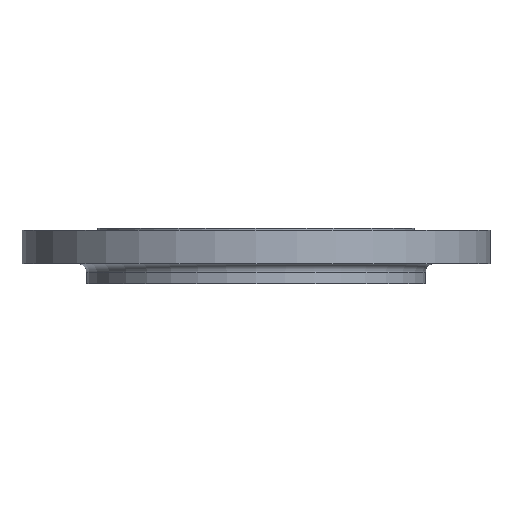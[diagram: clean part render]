
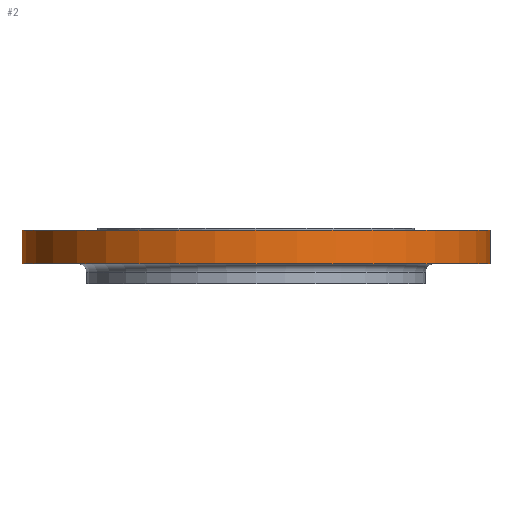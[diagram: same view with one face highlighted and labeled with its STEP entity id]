
A CAD part, front view. The second image highlights one B-rep face of the part: STEP entity #2.
In plain terms, the highlighted cylindrical face has radius 330 mm (diameter 660 mm), a partial arc.
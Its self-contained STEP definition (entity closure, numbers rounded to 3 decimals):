
#2 = ADVANCED_FACE ( 'NONE', ( #721 ), #720, .T. ) ;
#95 = CARTESIAN_POINT ( 'NONE',  ( -330., 0., -3. ) ) ;
#200 = AXIS2_PLACEMENT_3D ( 'NONE', #718, #715, #714 ) ;
#238 = DIRECTION ( 'NONE',  ( -1., 0., 0. ) ) ;
#239 = DIRECTION ( 'NONE',  ( 0., 0., -1. ) ) ;
#241 = CARTESIAN_POINT ( 'NONE',  ( 0., 0., -3. ) ) ;
#285 = DIRECTION ( 'NONE',  ( 1., 0., 0. ) ) ;
#286 = DIRECTION ( 'NONE',  ( 0., 0., 1. ) ) ;
#287 = CARTESIAN_POINT ( 'NONE',  ( 0., 0., -50. ) ) ;
#309 = CIRCLE ( 'NONE', #314, 330. ) ;
#314 = AXIS2_PLACEMENT_3D ( 'NONE', #241, #239, #238 ) ;
#403 = CARTESIAN_POINT ( 'NONE',  ( -330., 0., -50. ) ) ;
#415 = EDGE_CURVE ( 'NONE', #839, #1211, #539, .T. ) ;
#491 = DIRECTION ( 'NONE',  ( 0., 0., 1. ) ) ;
#492 = CARTESIAN_POINT ( 'NONE',  ( 330., 0., -145. ) ) ;
#494 = LINE ( 'NONE', #492, #873 ) ;
#539 = LINE ( 'NONE', #540, #673 ) ;
#540 = CARTESIAN_POINT ( 'NONE',  ( -330., 0., -145. ) ) ;
#542 = EDGE_CURVE ( 'NONE', #1581, #1287, #494, .T. ) ;
#543 = DIRECTION ( 'NONE',  ( 0., 0., 1. ) ) ;
#673 = VECTOR ( 'NONE', #543, 1000. ) ;
#714 = DIRECTION ( 'NONE',  ( 1., 0., 0. ) ) ;
#715 = DIRECTION ( 'NONE',  ( 0., 0., 1. ) ) ;
#718 = CARTESIAN_POINT ( 'NONE',  ( 0., 0., -145. ) ) ;
#720 = CYLINDRICAL_SURFACE ( 'NONE', #200, 330. ) ;
#721 = FACE_OUTER_BOUND ( 'NONE', #773, .T. ) ;
#773 = EDGE_LOOP ( 'NONE', ( #1433, #1434, #1435, #1438 ) ) ;
#839 = VERTEX_POINT ( 'NONE', #403 ) ;
#873 = VECTOR ( 'NONE', #491, 1000. ) ;
#1021 = EDGE_CURVE ( 'NONE', #839, #1581, #1075, .T. ) ;
#1075 = CIRCLE ( 'NONE', #1077, 330. ) ;
#1077 = AXIS2_PLACEMENT_3D ( 'NONE', #287, #286, #285 ) ;
#1095 = CARTESIAN_POINT ( 'NONE',  ( 330., 0., -50. ) ) ;
#1103 = EDGE_CURVE ( 'NONE', #1287, #1211, #309, .T. ) ;
#1138 = CARTESIAN_POINT ( 'NONE',  ( 330., 0., -3. ) ) ;
#1211 = VERTEX_POINT ( 'NONE', #95 ) ;
#1287 = VERTEX_POINT ( 'NONE', #1138 ) ;
#1433 = ORIENTED_EDGE ( 'NONE', *, *, #415, .F. ) ;
#1434 = ORIENTED_EDGE ( 'NONE', *, *, #1021, .T. ) ;
#1435 = ORIENTED_EDGE ( 'NONE', *, *, #542, .T. ) ;
#1438 = ORIENTED_EDGE ( 'NONE', *, *, #1103, .T. ) ;
#1581 = VERTEX_POINT ( 'NONE', #1095 ) ;
